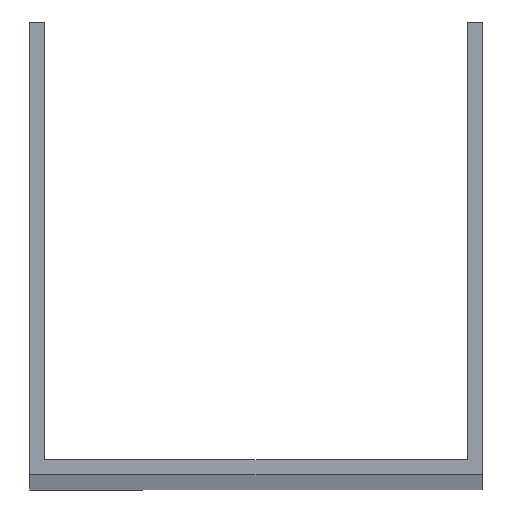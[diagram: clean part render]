
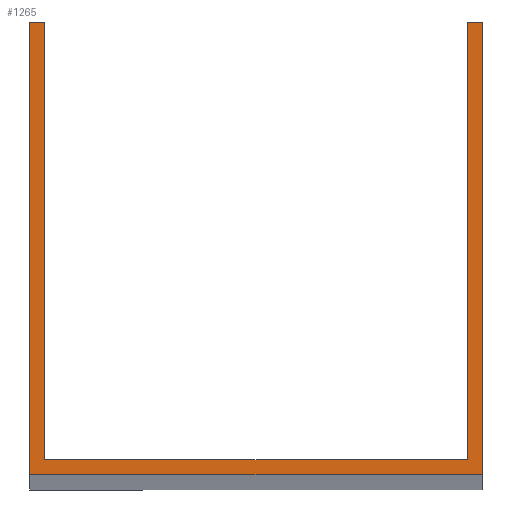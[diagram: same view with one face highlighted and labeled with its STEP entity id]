
A CAD part, top view. The second image highlights one B-rep face of the part: STEP entity #1265.
In plain terms, the highlighted planar face has unit normal (0, 0, 1).
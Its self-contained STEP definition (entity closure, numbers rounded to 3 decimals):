
#13 = VECTOR ( 'NONE', #631, 1000. ) ;
#20 = DIRECTION ( 'NONE',  ( 1., 0., 0. ) ) ;
#33 = ORIENTED_EDGE ( 'NONE', *, *, #1037, .T. ) ;
#78 = CARTESIAN_POINT ( 'NONE',  ( -48.5, 3.5, 1000. ) ) ;
#91 = DIRECTION ( 'NONE',  ( 0., 1., 0. ) ) ;
#92 = AXIS2_PLACEMENT_3D ( 'NONE', #1069, #407, #1444 ) ;
#113 = CARTESIAN_POINT ( 'NONE',  ( -52., 104., 1000. ) ) ;
#129 = DIRECTION ( 'NONE',  ( 1., 0., 0. ) ) ;
#163 = EDGE_CURVE ( 'NONE', #255, #1657, #1494, .T. ) ;
#247 = LINE ( 'NONE', #1026, #1036 ) ;
#255 = VERTEX_POINT ( 'NONE', #1239 ) ;
#277 = ORIENTED_EDGE ( 'NONE', *, *, #988, .T. ) ;
#298 = CARTESIAN_POINT ( 'NONE',  ( 52., 0., 1000. ) ) ;
#310 = VECTOR ( 'NONE', #129, 1000. ) ;
#390 = VECTOR ( 'NONE', #878, 1000. ) ;
#407 = DIRECTION ( 'NONE',  ( 0., 0., 1. ) ) ;
#420 = VERTEX_POINT ( 'NONE', #903 ) ;
#460 = DIRECTION ( 'NONE',  ( 0., -1., 0. ) ) ;
#556 = VERTEX_POINT ( 'NONE', #599 ) ;
#573 = CARTESIAN_POINT ( 'NONE',  ( -52., 104., 1000. ) ) ;
#585 = EDGE_CURVE ( 'NONE', #829, #420, #742, .T. ) ;
#599 = CARTESIAN_POINT ( 'NONE',  ( 52., 104., 1000. ) ) ;
#615 = ORIENTED_EDGE ( 'NONE', *, *, #585, .T. ) ;
#631 = DIRECTION ( 'NONE',  ( -1., 0., 0. ) ) ;
#668 = CARTESIAN_POINT ( 'NONE',  ( -52., 0., 1000. ) ) ;
#669 = CARTESIAN_POINT ( 'NONE',  ( -48.5, 104., 1000. ) ) ;
#688 = LINE ( 'NONE', #1576, #1173 ) ;
#690 = EDGE_CURVE ( 'NONE', #1142, #255, #688, .T. ) ;
#742 = LINE ( 'NONE', #1515, #795 ) ;
#754 = LINE ( 'NONE', #113, #13 ) ;
#795 = VECTOR ( 'NONE', #460, 1000. ) ;
#829 = VERTEX_POINT ( 'NONE', #1516 ) ;
#878 = DIRECTION ( 'NONE',  ( 0., -1., 0. ) ) ;
#903 = CARTESIAN_POINT ( 'NONE',  ( -52., 0., 1000. ) ) ;
#953 = CARTESIAN_POINT ( 'NONE',  ( 48.5, 104., 1000. ) ) ;
#988 = EDGE_CURVE ( 'NONE', #1226, #556, #247, .T. ) ;
#1026 = CARTESIAN_POINT ( 'NONE',  ( 52., 104., 1000. ) ) ;
#1036 = VECTOR ( 'NONE', #1385, 1000. ) ;
#1037 = EDGE_CURVE ( 'NONE', #420, #1226, #1462, .T. ) ;
#1069 = CARTESIAN_POINT ( 'NONE',  ( 0., 0., 1000. ) ) ;
#1092 = CARTESIAN_POINT ( 'NONE',  ( 48.5, 104., 1000. ) ) ;
#1142 = VERTEX_POINT ( 'NONE', #78 ) ;
#1163 = EDGE_LOOP ( 'NONE', ( #1289, #1362, #615, #33, #277, #1567, #1486, #1433 ) ) ;
#1173 = VECTOR ( 'NONE', #20, 1000. ) ;
#1194 = VERTEX_POINT ( 'NONE', #669 ) ;
#1212 = DIRECTION ( 'NONE',  ( -1., 0., 0. ) ) ;
#1226 = VERTEX_POINT ( 'NONE', #298 ) ;
#1239 = CARTESIAN_POINT ( 'NONE',  ( 48.5, 3.5, 1000. ) ) ;
#1265 = ADVANCED_FACE ( 'NONE', ( #1321 ), #1589, .T. ) ;
#1289 = ORIENTED_EDGE ( 'NONE', *, *, #1574, .F. ) ;
#1321 = FACE_OUTER_BOUND ( 'NONE', #1163, .T. ) ;
#1343 = EDGE_CURVE ( 'NONE', #556, #1657, #1394, .T. ) ;
#1362 = ORIENTED_EDGE ( 'NONE', *, *, #1466, .T. ) ;
#1377 = LINE ( 'NONE', #1518, #390 ) ;
#1385 = DIRECTION ( 'NONE',  ( 0., 1., 0. ) ) ;
#1394 = LINE ( 'NONE', #573, #1562 ) ;
#1433 = ORIENTED_EDGE ( 'NONE', *, *, #690, .F. ) ;
#1444 = DIRECTION ( 'NONE',  ( 1., 0., 0. ) ) ;
#1462 = LINE ( 'NONE', #668, #310 ) ;
#1466 = EDGE_CURVE ( 'NONE', #1194, #829, #754, .T. ) ;
#1486 = ORIENTED_EDGE ( 'NONE', *, *, #163, .F. ) ;
#1494 = LINE ( 'NONE', #1092, #1506 ) ;
#1506 = VECTOR ( 'NONE', #91, 1000. ) ;
#1515 = CARTESIAN_POINT ( 'NONE',  ( -52., 104., 1000. ) ) ;
#1516 = CARTESIAN_POINT ( 'NONE',  ( -52., 104., 1000. ) ) ;
#1518 = CARTESIAN_POINT ( 'NONE',  ( -48.5, 104., 1000. ) ) ;
#1562 = VECTOR ( 'NONE', #1212, 1000. ) ;
#1567 = ORIENTED_EDGE ( 'NONE', *, *, #1343, .T. ) ;
#1574 = EDGE_CURVE ( 'NONE', #1194, #1142, #1377, .T. ) ;
#1576 = CARTESIAN_POINT ( 'NONE',  ( -52., 3.5, 1000. ) ) ;
#1589 = PLANE ( 'NONE',  #92 ) ;
#1657 = VERTEX_POINT ( 'NONE', #953 ) ;
